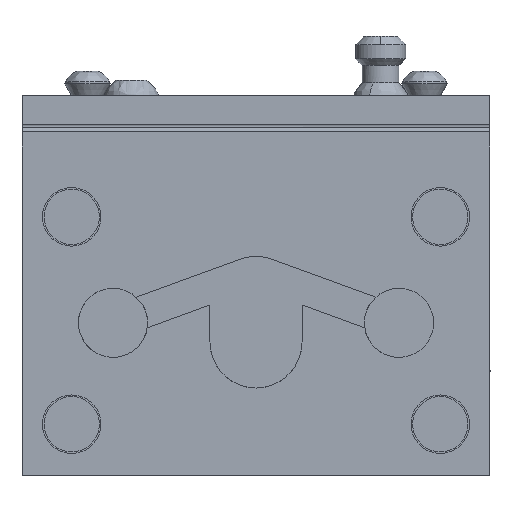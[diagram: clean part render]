
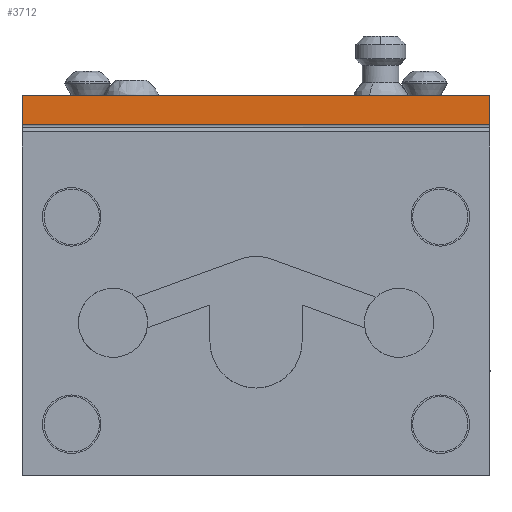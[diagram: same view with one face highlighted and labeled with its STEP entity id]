
A CAD part, front view. The second image highlights one B-rep face of the part: STEP entity #3712.
In plain terms, the highlighted planar face has unit normal (0, -1, 0).
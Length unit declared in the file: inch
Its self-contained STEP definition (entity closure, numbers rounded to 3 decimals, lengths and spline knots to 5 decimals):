
#527 = LINE ( 'NONE', #7358, #6955 ) ;
#595 = EDGE_CURVE ( 'NONE', #8621, #1451, #527, .T. ) ;
#793 = DIRECTION ( 'NONE',  ( 1., 0., 0. ) ) ;
#883 = DIRECTION ( 'NONE',  ( 0., -1., 0. ) ) ;
#1451 = VERTEX_POINT ( 'NONE', #2832 ) ;
#2148 = PLANE ( 'NONE',  #11903 ) ;
#2832 = CARTESIAN_POINT ( 'NONE',  ( 1.05713, -1.7659, 0.46216 ) ) ;
#3712 = ADVANCED_FACE ( 'NONE', ( #6531 ), #2148, .T. ) ;
#5004 = LINE ( 'NONE', #6433, #9880 ) ;
#5111 = DIRECTION ( 'NONE',  ( 0., 0., 1. ) ) ;
#5385 = EDGE_CURVE ( 'NONE', #1451, #6544, #13201, .T. ) ;
#5741 = LINE ( 'NONE', #13664, #17628 ) ;
#6204 = VECTOR ( 'NONE', #5111, 39.37008 ) ;
#6352 = DIRECTION ( 'NONE',  ( 0., 0., -1. ) ) ;
#6433 = CARTESIAN_POINT ( 'NONE',  ( -2.94287, -1.7659, -2.53784 ) ) ;
#6531 = FACE_OUTER_BOUND ( 'NONE', #15185, .T. ) ;
#6544 = VERTEX_POINT ( 'NONE', #10310 ) ;
#6955 = VECTOR ( 'NONE', #793, 39.37008 ) ;
#7358 = CARTESIAN_POINT ( 'NONE',  ( -2.94287, -1.7659, 0.46216 ) ) ;
#7580 = CARTESIAN_POINT ( 'NONE',  ( -2.94287, -1.7659, 0.46216 ) ) ;
#7784 = DIRECTION ( 'NONE',  ( 0., 0., -1. ) ) ;
#8621 = VERTEX_POINT ( 'NONE', #7580 ) ;
#9331 = CARTESIAN_POINT ( 'NONE',  ( 1.05713, -1.7659, -2.53784 ) ) ;
#9880 = VECTOR ( 'NONE', #7784, 39.37008 ) ;
#10310 = CARTESIAN_POINT ( 'NONE',  ( 1.05713, -1.7659, 0.71216 ) ) ;
#10632 = ORIENTED_EDGE ( 'NONE', *, *, #14643, .T. ) ;
#11903 = AXIS2_PLACEMENT_3D ( 'NONE', #13191, #883, #6352 ) ;
#12028 = EDGE_CURVE ( 'NONE', #12674, #8621, #5004, .T. ) ;
#12459 = CARTESIAN_POINT ( 'NONE',  ( -2.94287, -1.7659, 0.71216 ) ) ;
#12674 = VERTEX_POINT ( 'NONE', #12459 ) ;
#13093 = ORIENTED_EDGE ( 'NONE', *, *, #12028, .T. ) ;
#13191 = CARTESIAN_POINT ( 'NONE',  ( -2.94287, -1.7659, 0.46216 ) ) ;
#13201 = LINE ( 'NONE', #9331, #6204 ) ;
#13664 = CARTESIAN_POINT ( 'NONE',  ( -2.94287, -1.7659, 0.71216 ) ) ;
#14406 = ORIENTED_EDGE ( 'NONE', *, *, #5385, .T. ) ;
#14643 = EDGE_CURVE ( 'NONE', #6544, #12674, #5741, .T. ) ;
#15185 = EDGE_LOOP ( 'NONE', ( #17415, #14406, #10632, #13093 ) ) ;
#15357 = DIRECTION ( 'NONE',  ( -1., 0., 0. ) ) ;
#17415 = ORIENTED_EDGE ( 'NONE', *, *, #595, .T. ) ;
#17628 = VECTOR ( 'NONE', #15357, 39.37008 ) ;
